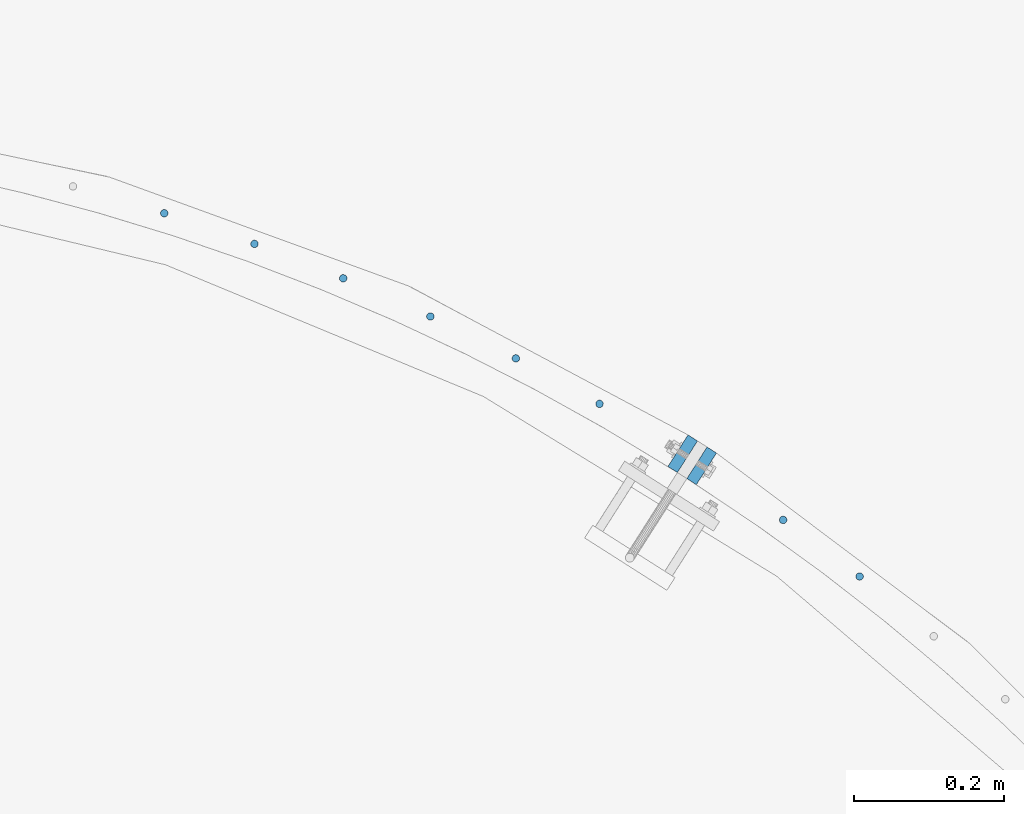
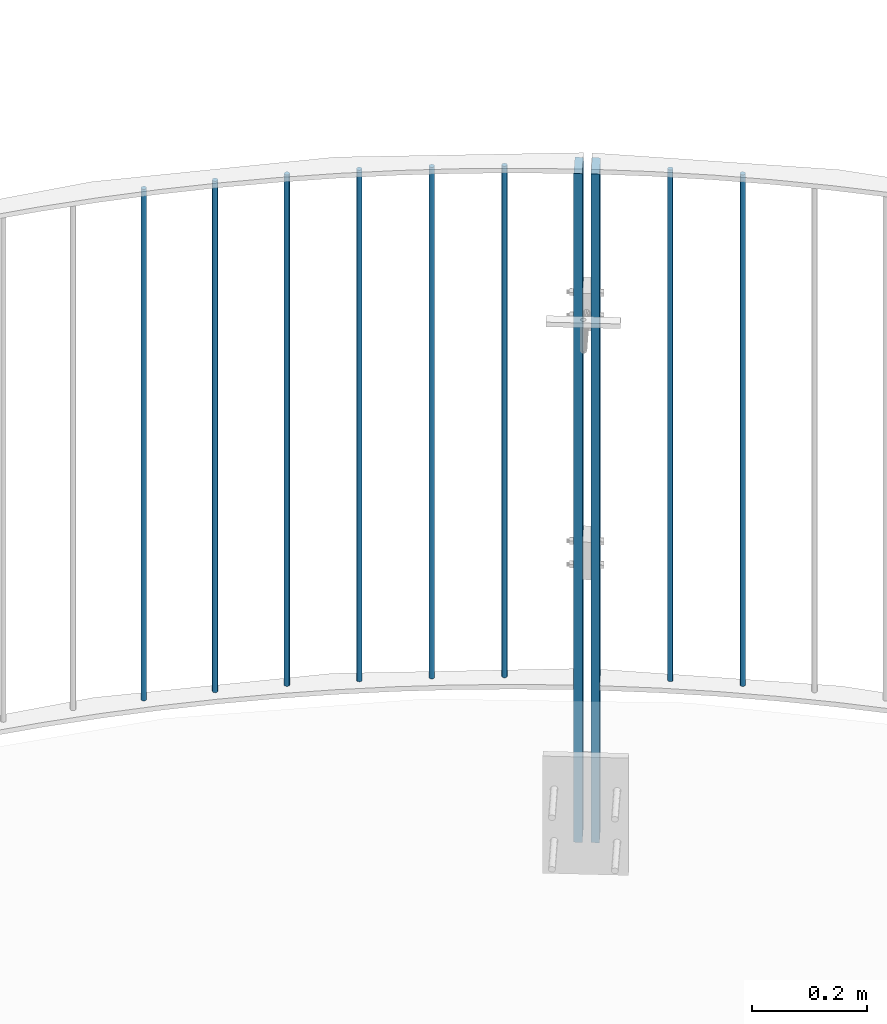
# One storey, part 95 of 296: 10 columns, 12 openings.
"""IFC2X3 building model written with IfcOpenShell, lengths in millimetres."""

from ifc_helpers import new_model, entity, si_unit, converted_unit, frame, frame_2d, origin, origin_with_axes, origin_2d, place, context, project, spatial, rectangle, circle, extrude, material, element, save


model = new_model("IFC2X3")

# Units and contexts
model_context = context("Model", 3, precision=1e-09, world=origin_with_axes())
ifc_project = project(units=[si_unit("LENGTHUNIT", "METRE", prefix="MILLI"), si_unit("AREAUNIT", "SQUARE_METRE"), si_unit("VOLUMEUNIT", "CUBIC_METRE"), converted_unit("PLANEANGLEUNIT", "DEGREE", entity("IfcPlaneAngleMeasure", 0.01745329), si_unit("PLANEANGLEUNIT", "RADIAN"), dimensions=[0, 0, 0, 0, 0, 0, 0])], contexts=[model_context])

# Site, building, storey
site_placement = place(None, origin_with_axes())
site = spatial("IfcSite", under=ifc_project, at=site_placement, Name="TZD-S?d | Treppenhausgel?nder", CompositionType="ELEMENT")
building_placement = place(site_placement, origin_with_axes())
building = spatial("IfcBuilding", under=site, at=building_placement, Name="Struktur 1", CompositionType="ELEMENT")
storey_placement = place(building_placement, origin_with_axes())
storey = spatial("IfcBuildingStorey", under=building, at=storey_placement, Name="Default Storey", CompositionType="ELEMENT", Elevation=0.0)

# Columns
ifc_material = material(Name="S235JR")
for number, where, z_axis, x_axis in (
    (1, (4754.886554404, 2266.022423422, 7350.0), (0.0, 0.0, -1.0), (-0.422618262, 0.906307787, 0.0)),
    (2, (4652.810548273, 2341.511969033, 7350.0), (0.0, 0.0, -1.0), (-0.422618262, 0.906307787, 0.0)),
    (3, (4407.879997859, 2496.374672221, 7350.0), (0.0, 0.0, -1.0), (-0.766044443, 0.64278761, 0.0)),
    (4, (4296.324050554, 2556.983690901, 7350.0), (0.0, 0.0, -1.0), (-0.766044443, 0.64278761, 0.0)),
    (5, (4182.29574631, 2612.802400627, 7350.0), (0.0, 0.0, -1.0), (-0.766044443, 0.64278761, 0.0)),
    (6, (4066.000667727, 2663.730165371, 7350.0), (0.0, 0.0, -1.0), (-0.766044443, 0.64278761, 0.0)),
    (7, (3947.648484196, 2709.675167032, 7350.0), (0.0, 0.0, -1.0), (-0.766044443, 0.64278761, 0.0)),
    (8, (3827.452573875, 2750.554570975, 7350.0), (0.0, 0.0, -1.0), (-0.766044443, 0.64278761, 0.0)),
):
    element("IfcColumn", number, at=place(None, frame(where, z_axis=z_axis, x_axis=x_axis)), inside=storey, material=ifc_material, Name="-", ObjectType="-", context=model_context, shape_type="SweptSolid", body=[
        extrude(circle(Radius=5.0, at=origin_2d()), origin(), (0.0, 0.0, -1.0), 1090.0),
    ])

# Column, openings
column_1_placement = place(None, frame((4544.176700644, 2413.680928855, 7015.001), z_axis=(0.0, 0.0, -1.0), x_axis=(-0.843391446, 0.537299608, 0.0)))
column_1 = element("IfcColumn", 9, at=column_1_placement, inside=storey, material=ifc_material, Name="-", ObjectType="-", context=model_context, shape_type="SweptSolid", body=[
    extrude(rectangle(XDim=15.0, YDim=50.0, at=origin_2d()), origin(), (0.0, 0.0, -1.0), 1424.999),
])
opening_1_placement = place(column_1_placement, frame((8.0, 7.001, -135.0), z_axis=(1.0, 0.0, 0.0), x_axis=(0.0, 1.0, 0.0)))
element("IfcOpeningElement", 10, at=opening_1_placement, cuts=column_1, ObjectType="Opening", context=model_context, shape_type="SweptSolid", body=[
    extrude(circle(Radius=7.001, at=frame_2d((-7.001, 0.0), x_axis=(1.0, 0.0))), origin(), (0.0, 0.0, -1.0), 16.0),
])
opening_2_placement = place(column_1_placement, frame((8.0, 7.001, -35.0), z_axis=(1.0, 0.0, 0.0), x_axis=(0.0, 1.0, 0.0)))
element("IfcOpeningElement", 11, at=opening_2_placement, cuts=column_1, ObjectType="Opening", context=model_context, shape_type="SweptSolid", body=[
    extrude(circle(Radius=7.001, at=frame_2d((-7.001, 0.0), x_axis=(1.0, 0.0))), origin(), (0.0, 0.0, -1.0), 16.0),
])
opening_3_placement = place(column_1_placement, frame((8.0, 5.001, -624.999999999), z_axis=(1.0, 0.0, 0.0), x_axis=(0.0, 1.0, 0.0)))
element("IfcOpeningElement", 12, at=opening_3_placement, cuts=column_1, ObjectType="Opening", context=model_context, shape_type="SweptSolid", body=[
    extrude(circle(Radius=5.001, at=frame_2d((-5.001, 0.0), x_axis=(1.0, 0.0))), origin(), (0.0, 0.0, -1.0), 16.0),
])
opening_4_placement = place(column_1_placement, frame((8.0, 5.001, -574.999999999), z_axis=(1.0, 0.0, 0.0), x_axis=(0.0, 1.0, 0.0)))
element("IfcOpeningElement", 13, at=opening_4_placement, cuts=column_1, ObjectType="Opening", context=model_context, shape_type="SweptSolid", body=[
    extrude(circle(Radius=5.001, at=frame_2d((-5.001, 0.0), x_axis=(1.0, 0.0))), origin(), (0.0, 0.0, -1.0), 16.0),
])
opening_5_placement = place(column_1_placement, frame((8.0, 5.001, -1154.999999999), z_axis=(1.0, 0.0, 0.0), x_axis=(0.0, 1.0, 0.0)))
element("IfcOpeningElement", 14, at=opening_5_placement, cuts=column_1, ObjectType="Opening", context=model_context, shape_type="SweptSolid", body=[
    extrude(circle(Radius=5.001, at=frame_2d((-5.001, 0.0), x_axis=(1.0, 0.0))), origin(), (0.0, 0.0, -1.0), 16.0),
])
opening_6_placement = place(column_1_placement, frame((8.0, 5.001, -1104.999999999), z_axis=(1.0, 0.0, 0.0), x_axis=(0.0, 1.0, 0.0)))
element("IfcOpeningElement", 15, at=opening_6_placement, cuts=column_1, ObjectType="Opening", context=model_context, shape_type="SweptSolid", body=[
    extrude(circle(Radius=5.001, at=frame_2d((-5.001, 0.0), x_axis=(1.0, 0.0))), origin(), (0.0, 0.0, -1.0), 16.0),
])

column_2_placement = place(None, frame((4518.87495727, 2429.799917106, 7015.001), z_axis=(0.0, 0.0, 1.0), x_axis=(0.843391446, -0.537299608, 0.0)))
column_2 = element("IfcColumn", 16, at=column_2_placement, inside=storey, material=ifc_material, Name="-", ObjectType="-", context=model_context, shape_type="SweptSolid", body=[
    extrude(rectangle(XDim=15.0, YDim=50.0, at=origin_2d()), origin(), (0.0, 0.0, 1.0), 1424.999),
])
opening_7_placement = place(column_2_placement, frame((-8.0, 5.001, 1154.999999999), z_axis=(-1.0, 0.0, 0.0), x_axis=(0.0, -1.0, 0.0)))
element("IfcOpeningElement", 17, at=opening_7_placement, cuts=column_2, ObjectType="Opening", context=model_context, shape_type="SweptSolid", body=[
    extrude(circle(Radius=5.001, at=frame_2d((5.001, 0.0), x_axis=(1.0, 0.0))), origin(), (0.0, 0.0, -1.0), 16.0),
])
opening_8_placement = place(column_2_placement, frame((-8.0, 5.001, 1104.999999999), z_axis=(-1.0, 0.0, 0.0), x_axis=(0.0, -1.0, 0.0)))
element("IfcOpeningElement", 18, at=opening_8_placement, cuts=column_2, ObjectType="Opening", context=model_context, shape_type="SweptSolid", body=[
    extrude(circle(Radius=5.001, at=frame_2d((5.001, 0.0), x_axis=(1.0, 0.0))), origin(), (0.0, 0.0, -1.0), 16.0),
])
opening_9_placement = place(column_2_placement, frame((-8.0, 5.001, 624.999999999), z_axis=(-1.0, 0.0, 0.0), x_axis=(0.0, -1.0, 0.0)))
element("IfcOpeningElement", 19, at=opening_9_placement, cuts=column_2, ObjectType="Opening", context=model_context, shape_type="SweptSolid", body=[
    extrude(circle(Radius=5.001, at=frame_2d((5.001, 0.0), x_axis=(1.0, 0.0))), origin(), (0.0, 0.0, -1.0), 16.0),
])
opening_10_placement = place(column_2_placement, frame((-8.0, 5.001, 574.999999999), z_axis=(-1.0, 0.0, 0.0), x_axis=(0.0, -1.0, 0.0)))
element("IfcOpeningElement", 20, at=opening_10_placement, cuts=column_2, ObjectType="Opening", context=model_context, shape_type="SweptSolid", body=[
    extrude(circle(Radius=5.001, at=frame_2d((5.001, 0.0), x_axis=(1.0, 0.0))), origin(), (0.0, 0.0, -1.0), 16.0),
])
opening_11_placement = place(column_2_placement, frame((-8.0, 7.001, 135.0), z_axis=(-1.0, 0.0, 0.0), x_axis=(0.0, -1.0, 0.0)))
element("IfcOpeningElement", 21, at=opening_11_placement, cuts=column_2, ObjectType="Opening", context=model_context, shape_type="SweptSolid", body=[
    extrude(circle(Radius=7.001, at=frame_2d((7.001, 0.0), x_axis=(1.0, 0.0))), origin(), (0.0, 0.0, -1.0), 16.0),
])
opening_12_placement = place(column_2_placement, frame((-8.0, 7.001, 35.0), z_axis=(-1.0, 0.0, 0.0), x_axis=(0.0, -1.0, 0.0)))
element("IfcOpeningElement", 22, at=opening_12_placement, cuts=column_2, ObjectType="Opening", context=model_context, shape_type="SweptSolid", body=[
    extrude(circle(Radius=7.001, at=frame_2d((7.001, 0.0), x_axis=(1.0, 0.0))), origin(), (0.0, 0.0, -1.0), 16.0),
])

save(model, "model.ifc")
